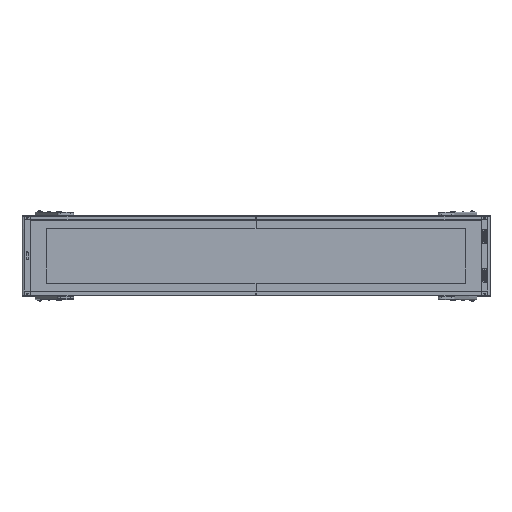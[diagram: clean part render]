
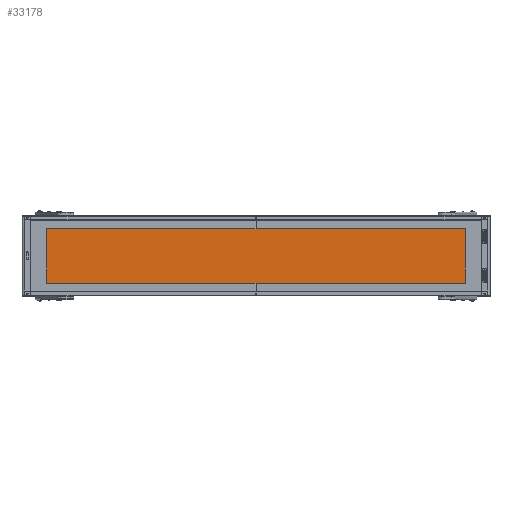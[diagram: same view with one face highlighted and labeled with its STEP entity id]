
A CAD part, top view. The second image highlights one B-rep face of the part: STEP entity #33178.
In plain terms, the highlighted planar face has unit normal (0, 0, 1).
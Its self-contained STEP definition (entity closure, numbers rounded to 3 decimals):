
#397 = DIRECTION ( 'NONE',  ( 0., 0., 1. ) ) ;
#427 = ORIENTED_EDGE ( 'NONE', *, *, #86598, .F. ) ;
#1726 = DIRECTION ( 'NONE',  ( 1., 0., 0. ) ) ;
#2927 = CARTESIAN_POINT ( 'NONE',  ( 0., 2., 64.99 ) ) ;
#7035 = CARTESIAN_POINT ( 'NONE',  ( -2573.333, 506., 64.99 ) ) ;
#10634 = ORIENTED_EDGE ( 'NONE', *, *, #63454, .F. ) ;
#17851 = EDGE_CURVE ( 'NONE', #84872, #81665, #71099, .T. ) ;
#20143 = ORIENTED_EDGE ( 'NONE', *, *, #50638, .T. ) ;
#22214 = CARTESIAN_POINT ( 'NONE',  ( -3860., 506., 64.99 ) ) ;
#26029 = VERTEX_POINT ( 'NONE', #73193 ) ;
#28475 = CARTESIAN_POINT ( 'NONE',  ( 0., 0., 64.99 ) ) ;
#29116 = CARTESIAN_POINT ( 'NONE',  ( 0., 506., 64.99 ) ) ;
#29571 = CARTESIAN_POINT ( 'NONE',  ( -1286.667, 506., 64.99 ) ) ;
#33178 = ADVANCED_FACE ( 'NONE', ( #85969 ), #77309, .T. ) ;
#34149 = CARTESIAN_POINT ( 'NONE',  ( 0., 506., 64.99 ) ) ;
#40370 = B_SPLINE_CURVE_WITH_KNOTS ( 'NONE', 3,
 ( #45717, #73837, #59047, #59959 ),
 .UNSPECIFIED., .F., .F.,
 ( 4, 4 ),
 ( 0., 1. ),
 .UNSPECIFIED. ) ;
#43642 = CARTESIAN_POINT ( 'NONE',  ( 0., 2., 64.99 ) ) ;
#45560 = AXIS2_PLACEMENT_3D ( 'NONE', #28475, #397, #1726 ) ;
#45717 = CARTESIAN_POINT ( 'NONE',  ( -3860., 2., 64.99 ) ) ;
#47102 = CARTESIAN_POINT ( 'NONE',  ( -3860., 2., 64.99 ) ) ;
#50638 = EDGE_CURVE ( 'NONE', #84872, #26029, #89414, .T. ) ;
#51052 = CARTESIAN_POINT ( 'NONE',  ( 0., 2., 64.99 ) ) ;
#59047 = CARTESIAN_POINT ( 'NONE',  ( -3860., 338., 64.99 ) ) ;
#59959 = CARTESIAN_POINT ( 'NONE',  ( -3860., 506., 64.99 ) ) ;
#63454 = EDGE_CURVE ( 'NONE', #84352, #26029, #40370, .T. ) ;
#71099 = B_SPLINE_CURVE_WITH_KNOTS ( 'NONE', 3,
 ( #34149, #75612, #76078, #43642 ),
 .UNSPECIFIED., .F., .F.,
 ( 4, 4 ),
 ( 0., 1. ),
 .UNSPECIFIED. ) ;
#71426 = B_SPLINE_CURVE_WITH_KNOTS ( 'NONE', 1,
 ( #2927, #80310 ),
 .UNSPECIFIED., .F., .F.,
 ( 2, 2 ),
 ( 0., 1. ),
 .UNSPECIFIED. ) ;
#73193 = CARTESIAN_POINT ( 'NONE',  ( -3860., 506., 64.99 ) ) ;
#73837 = CARTESIAN_POINT ( 'NONE',  ( -3860., 170., 64.99 ) ) ;
#75612 = CARTESIAN_POINT ( 'NONE',  ( 0., 338., 64.99 ) ) ;
#76078 = CARTESIAN_POINT ( 'NONE',  ( 0., 170., 64.99 ) ) ;
#77309 = PLANE ( 'NONE',  #45560 ) ;
#80310 = CARTESIAN_POINT ( 'NONE',  ( -3860., 2., 64.99 ) ) ;
#81476 = CARTESIAN_POINT ( 'NONE',  ( 0., 506., 64.99 ) ) ;
#81665 = VERTEX_POINT ( 'NONE', #51052 ) ;
#84176 = EDGE_LOOP ( 'NONE', ( #86300, #20143, #10634, #427 ) ) ;
#84352 = VERTEX_POINT ( 'NONE', #47102 ) ;
#84872 = VERTEX_POINT ( 'NONE', #81476 ) ;
#85969 = FACE_OUTER_BOUND ( 'NONE', #84176, .T. ) ;
#86300 = ORIENTED_EDGE ( 'NONE', *, *, #17851, .F. ) ;
#86598 = EDGE_CURVE ( 'NONE', #81665, #84352, #71426, .T. ) ;
#89414 = B_SPLINE_CURVE_WITH_KNOTS ( 'NONE', 3,
 ( #29116, #29571, #7035, #22214 ),
 .UNSPECIFIED., .F., .F.,
 ( 4, 4 ),
 ( 0., 1. ),
 .UNSPECIFIED. ) ;
